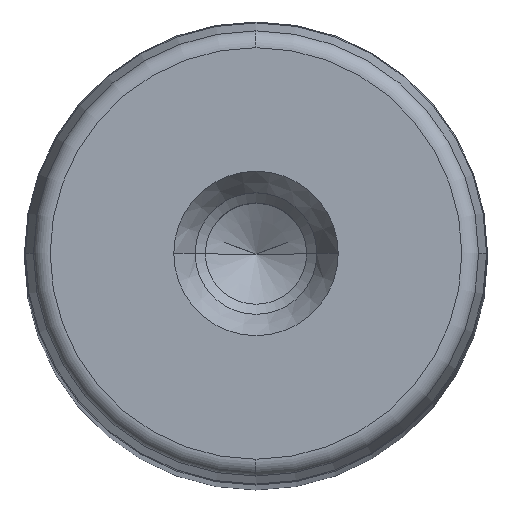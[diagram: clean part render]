
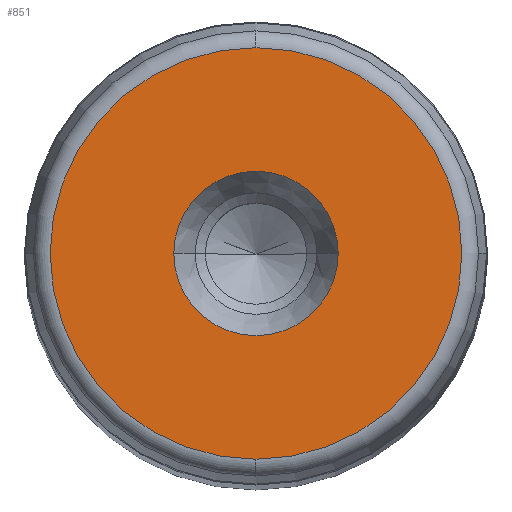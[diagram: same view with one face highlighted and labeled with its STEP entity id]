
A CAD part, top view. The second image highlights one B-rep face of the part: STEP entity #851.
In plain terms, the highlighted planar face has unit normal (0, 0, 1) as drawn and (0, 1, 0) by its records, which use the part's own axes.
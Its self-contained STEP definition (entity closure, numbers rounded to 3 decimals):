
#281=CARTESIAN_POINT('',(14.2,500.0,0.0));
#282=VERTEX_POINT('',#281);
#289=CARTESIAN_POINT('',(-14.2,500.0,0.));
#290=VERTEX_POINT('',#289);
#291=CARTESIAN_POINT('',(0.0,500.0,0.0));
#292=DIRECTION('',(0.0,1.0,0.0));
#293=DIRECTION('',(1.0,0.0,0.0));
#294=AXIS2_PLACEMENT_3D('',#291,#292,#293);
#295=CIRCLE('',#294,14.2);
#296=EDGE_CURVE('',#282,#290,#295,.T.);
#313=CARTESIAN_POINT('',(0.0,500.0,35.554));
#314=VERTEX_POINT('',#313);
#324=CARTESIAN_POINT('',(0.,500.0,-35.554));
#325=VERTEX_POINT('',#324);
#326=CARTESIAN_POINT('',(0.0,500.0,0.0));
#327=DIRECTION('',(0.0,1.0,0.0));
#328=DIRECTION('',(1.0,0.0,0.0));
#329=AXIS2_PLACEMENT_3D('',#326,#327,#328);
#330=CIRCLE('',#329,35.554);
#331=EDGE_CURVE('',#325,#314,#330,.T.);
#812=CARTESIAN_POINT('',(35.554,500.0,0.0));
#813=VERTEX_POINT('',#812);
#814=CARTESIAN_POINT('',(0.0,500.0,0.0));
#815=DIRECTION('',(0.0,1.0,0.0));
#816=DIRECTION('',(1.0,0.0,0.0));
#817=AXIS2_PLACEMENT_3D('',#814,#815,#816);
#818=CIRCLE('',#817,35.554);
#819=EDGE_CURVE('',#813,#325,#818,.T.);
#821=CARTESIAN_POINT('',(0.0,500.0,0.0));
#822=DIRECTION('',(0.0,1.0,0.0));
#823=DIRECTION('',(1.0,0.0,0.0));
#824=AXIS2_PLACEMENT_3D('',#821,#822,#823);
#825=CIRCLE('',#824,35.554);
#826=EDGE_CURVE('',#314,#813,#825,.T.);
#831=CARTESIAN_POINT('',(-39.11,500.0,-39.11));
#832=DIRECTION('',(0.0,1.0,0.0));
#833=DIRECTION('',(0.0,0.0,1.0));
#834=AXIS2_PLACEMENT_3D('',#831,#832,#833);
#835=PLANE('',#834);
#836=ORIENTED_EDGE('',*,*,#819,.T.);
#837=ORIENTED_EDGE('',*,*,#331,.T.);
#838=ORIENTED_EDGE('',*,*,#826,.T.);
#839=EDGE_LOOP('',(#836,#837,#838));
#840=FACE_OUTER_BOUND('',#839,.T.);
#841=ORIENTED_EDGE('',*,*,#296,.F.);
#842=CARTESIAN_POINT('',(0.0,500.0,0.0));
#843=DIRECTION('',(0.0,1.0,0.0));
#844=DIRECTION('',(1.0,0.0,0.0));
#845=AXIS2_PLACEMENT_3D('',#842,#843,#844);
#846=CIRCLE('',#845,14.2);
#847=EDGE_CURVE('',#290,#282,#846,.T.);
#848=ORIENTED_EDGE('',*,*,#847,.F.);
#849=EDGE_LOOP('',(#841,#848));
#850=FACE_BOUND('',#849,.T.);
#851=ADVANCED_FACE('',(#840,#850),#835,.T.);
